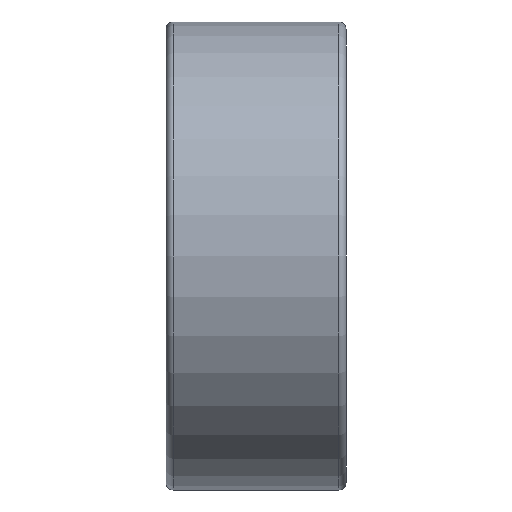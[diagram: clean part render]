
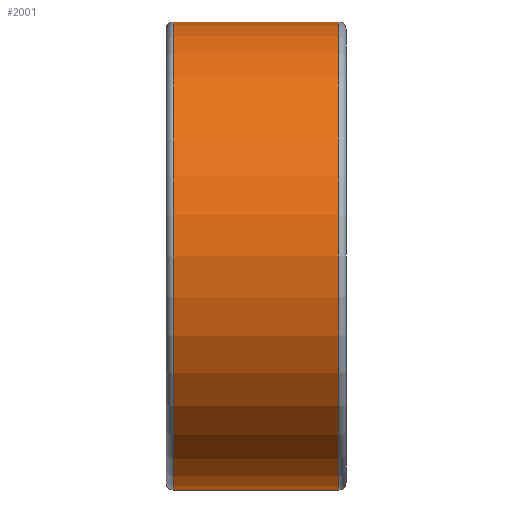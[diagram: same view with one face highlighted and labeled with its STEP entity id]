
A CAD part, front view. The second image highlights one B-rep face of the part: STEP entity #2001.
In plain terms, the highlighted cylindrical face has radius 6.5 mm (diameter 13 mm), a partial arc.
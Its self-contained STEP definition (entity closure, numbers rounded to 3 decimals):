
#1012=DIRECTION('',(-1.,0.,0.));
#1013=VECTOR('',#1012,4.6);
#1014=CARTESIAN_POINT('',(2.3,0.,6.5));
#1015=LINE('',#1014,#1013);
#1051=CARTESIAN_POINT('',(2.3,0.,0.));
#1052=DIRECTION('',(-1.,0.,0.));
#1053=DIRECTION('',(0.,0.,-1.));
#1054=AXIS2_PLACEMENT_3D('',#1051,#1052,#1053);
#1056=DIRECTION('',(-1.,0.,0.));
#1057=VECTOR('',#1056,4.6);
#1058=CARTESIAN_POINT('',(2.3,0.,-6.5));
#1059=LINE('',#1058,#1057);
#1065=CARTESIAN_POINT('',(-2.3,0.,0.));
#1066=DIRECTION('',(1.,0.,0.));
#1067=DIRECTION('',(0.,0.,1.));
#1068=AXIS2_PLACEMENT_3D('',#1065,#1066,#1067);
#1480=CARTESIAN_POINT('',(2.3,0.,6.5));
#1481=VERTEX_POINT('',#1480);
#1482=CARTESIAN_POINT('',(2.3,0.,-6.5));
#1483=VERTEX_POINT('',#1482);
#1488=CARTESIAN_POINT('',(-2.3,0.,-6.5));
#1489=VERTEX_POINT('',#1488);
#1490=CARTESIAN_POINT('',(-2.3,0.,6.5));
#1491=VERTEX_POINT('',#1490);
#1989=CARTESIAN_POINT('',(0.,0.,0.));
#1990=DIRECTION('',(-1.,0.,0.));
#1991=DIRECTION('',(0.,0.,1.));
#1992=AXIS2_PLACEMENT_3D('',#1989,#1990,#1991);
#1993=CYLINDRICAL_SURFACE('',#1992,6.5);
#1994=ORIENTED_EDGE('',*,*,#1939,.T.);
#1996=ORIENTED_EDGE('',*,*,#1995,.F.);
#1997=ORIENTED_EDGE('',*,*,#1936,.F.);
#1998=ORIENTED_EDGE('',*,*,#1982,.F.);
#1999=EDGE_LOOP('',(#1994,#1996,#1997,#1998));
#2000=FACE_OUTER_BOUND('',#1999,.F.);
#2001=ADVANCED_FACE('',(#2000),#1993,.T.);
#1055=CIRCLE('',#1054,6.5);
#1069=CIRCLE('',#1068,6.5);
#1936=EDGE_CURVE('',#1481,#1491,#1015,.T.);
#1939=EDGE_CURVE('',#1483,#1489,#1059,.T.);
#1982=EDGE_CURVE('',#1483,#1481,#1055,.T.);
#1995=EDGE_CURVE('',#1491,#1489,#1069,.T.);
